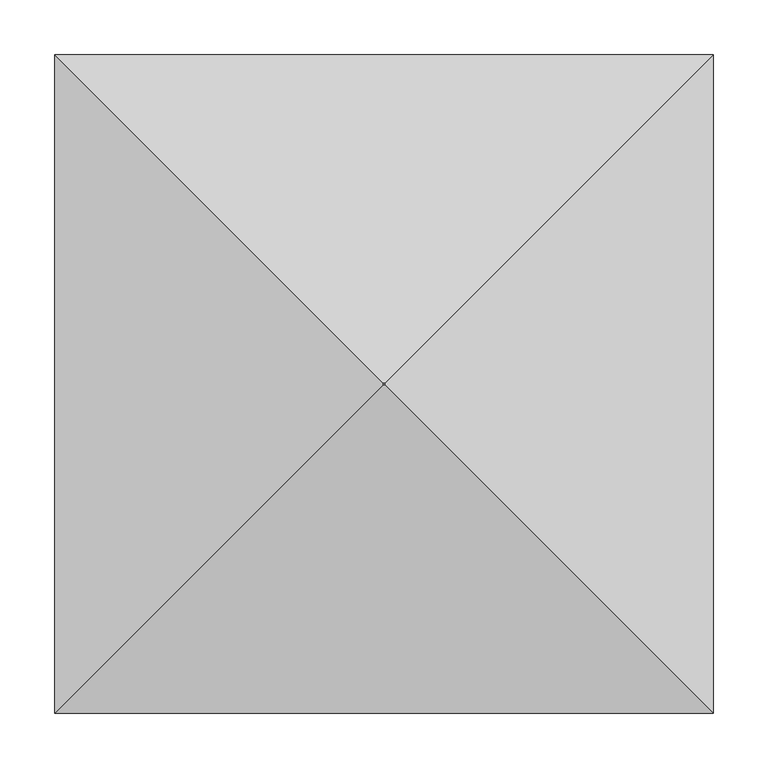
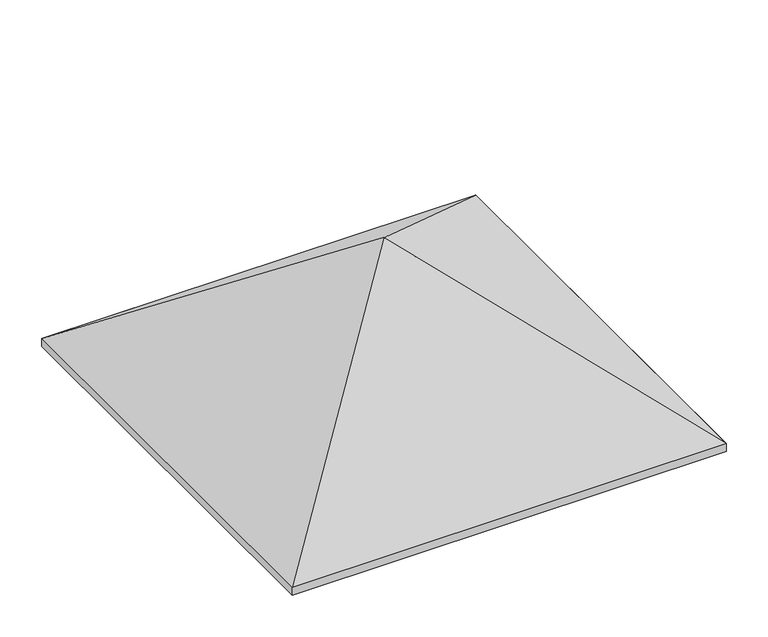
"""IFC4 building model written with IfcOpenShell, lengths in millimetres: proxy geometry, Offecct - Spiegel Panel - Medium : Offecct - Spiegel Panel - Medium."""

from ifc_helpers import new_model, si_unit, origin, origin_with_axes, place, context, project, spatial, polyline, outline, extrude, faceted_brep, source, transform, mapped, element, save


def generic_models_05e9e51e(model_context):
    return source(origin(), model_context, "Body", "SolidModel", [
        faceted_brep([(0.5, 0.5, 235.6489907), (-0.5, 0.5, 235.6489907), (-0.5, -0.5, 235.6489907), (0.5, -0.5, 235.6489907), (300.0, 300.0, 11.5689886), (300.0, -300.0, 11.5689886), (-300.0, -300.0, 11.5689886), (-300.0, 300.0, 11.5689886)], [[[0, 1, 2, 3]], [[4, 5, 6, 7]], [[4, 7, 1, 0]], [[7, 6, 2, 1]], [[6, 5, 3, 2]], [[5, 4, 0, 3]]]),
        extrude(outline(polyline([(-300.0, 300.0), (300.0, 300.0), (300.0, -300.0), (-300.0, -300.0), (-300.0, 300.0)])), origin_with_axes(), (0.0, 0.0, 1.0), 11.5689886),
    ])


if __name__ == "__main__":
    model = new_model("IFC4")
    model_context = context("Model", 3, world=origin())
    ifc_project = project(units=[si_unit("LENGTHUNIT", "METRE", prefix="MILLI")], contexts=[model_context])
    site = spatial("IfcSite", under=ifc_project)
    building = spatial("IfcBuilding", under=site)
    placement = place(None, origin())
    generic_models_shape = generic_models_05e9e51e(model_context)
    element("IfcBuildingElementProxy", 1, Name="Offecct - Spiegel Panel - Medium : Offecct - Spiegel Panel - Medium", ObjectType="Offecct - Spiegel Panel - Medium : Offecct - Spiegel Panel - Medium", at=placement, inside=building, context=model_context, shape_type="MappedRepresentation", body=[
        mapped(generic_models_shape, transform((0.0, 0.0, 0.0), x_axis=(1.0, 0.0, 0.0), y_axis=(0.0, 1.0, 0.0), z_axis=(0.0, 0.0, 1.0))),
    ])
    save(model, "model.ifc")
